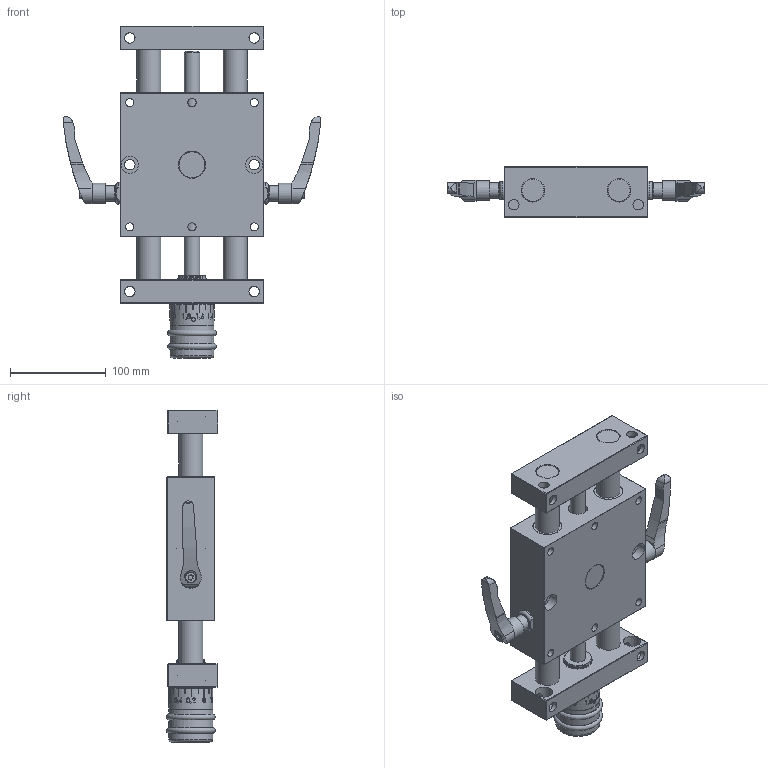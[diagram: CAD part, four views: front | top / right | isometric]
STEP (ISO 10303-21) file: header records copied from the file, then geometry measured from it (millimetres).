
FILE_DESCRIPTION (( 'STEP AP214' ), '1' );
FILE_NAME ('PT8625-SK-2KH-Positioniertisch.STEP', '2023-11-20T14:34:44', ( '' ), ( '' ), 'SwSTEP 2.0', 'SolidWorks 2019', '' );
FILE_SCHEMA (( 'AUTOMOTIVE_DESIGN' ));
Length unit declared in the file: millimetre
Products named in the file (3): PT25-100-02-Schlitten-komplett-2KH; PT8625-SK-2KH-Positioniertisch; PT8625-000-01-Festteil-SK_n_Standard
Assembly tree (2 placements, depth 2):
  PT8625-SK-2KH-Positioniertisch
    PT8625-000-01-Festteil-SK_n_Standard
    PT25-100-02-Schlitten-komplett-2KH
Bounding box: 269.61 x 53.48 x 347 mm (x, y, z)
Volume: 1672573.7 mm3; surface area: 264017.8 mm2
Topology: 2 solids, 9 shells, 792 faces, 1946 edges, 1263 vertices
Faces by surface type: plane 307, cylinder 232, bspline 173, cone 49, torus 22, sphere 9
Full cylindrical faces by diameter (mm): 2.5 x2, 4.2 x1, 5 x2, 7 x2, 8.5 x8, 10 x2, 10.6 x4, 11 x14, 13.7 x2, 14 x3, 14.5 x4, 16 x5, 16.5 x1, 16.6 x2, 18 x14, 18.5 x2, 19.9 x1, 20 x2, 21 x2, 23 x1, 24 x1, 24.4 x4, 24.6 x2, 24.8 x2, 25 x2, 26 x2, 28 x2, 29 x2, 29.98 x8, 30 x1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
Entity records: 50884 total; most frequent: CARTESIAN_POINT 34710, ORIENTED_EDGE 3328, DIRECTION 2673, EDGE_CURVE 1664, VERTEX_POINT 1171, EDGE_LOOP 1141, AXIS2_PLACEMENT_3D 1085, FACE_OUTER_BOUND 923
